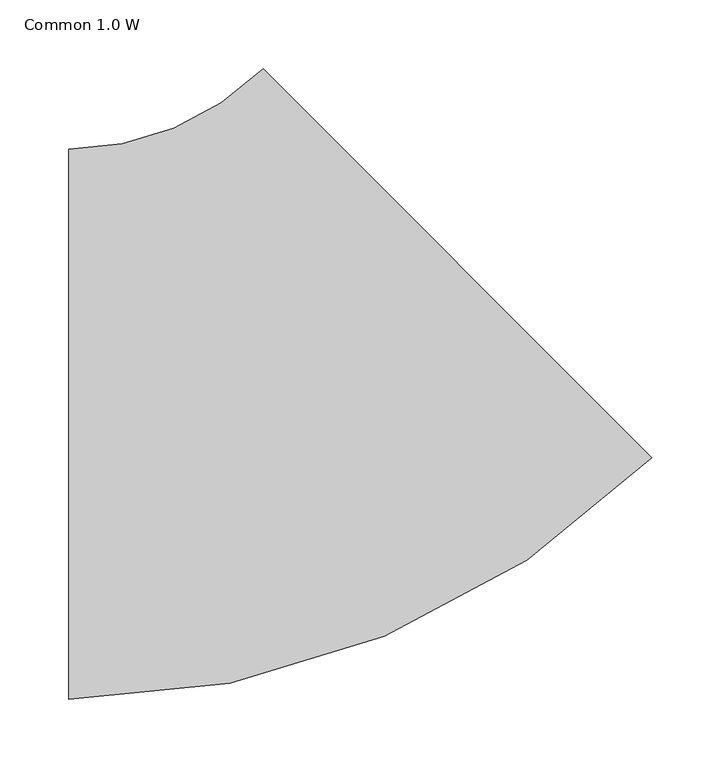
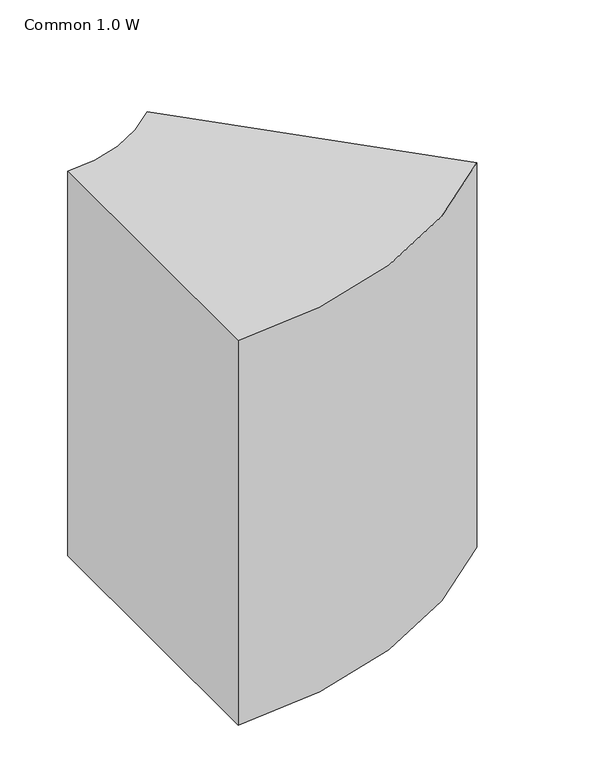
"""IFC4 building model written with IfcOpenShell, lengths in millimetres: duct fitting geometry, 011_角型エルボ - 半径 : Common 1.0 W."""

from ifc_helpers import new_model, si_unit, point, frame, frame_2d, origin, place, context, project, spatial, polyline, circle_curve, trimmed, segment, composite_curve, outline, extrude, source, transform, mapped, element, save


def common_1_0_w_6671b1d5(model_context):
    return source(origin(), model_context, "Body", "SweptSolid", [
        extrude(outline(composite_curve([segment(trimmed(circle_curve(frame_2d((-165.6854249, 400.0)), 600.0), [point((258.5786438, -24.2640687))], [point((-165.6854249, -200.0))], False, "CARTESIAN"), True, "CONTINUOUS"), segment(polyline([(-165.6854249, -200.0), (-165.6854249, 200.0)]), True, "CONTINUOUS"), segment(trimmed(circle_curve(frame_2d((-165.6854249, 400.0)), 200.0), [point((-165.6854249, 200.0))], [point((-24.2640687, 258.5786438))], True, "CARTESIAN"), True, "CONTINUOUS"), segment(polyline([(-24.2640687, 258.5786438), (258.5786438, -24.2640687)]), True, "CONTINUOUS")], self_intersect=False)), frame((0.0, 0.0, -275.0), z_axis=(0.0, 0.0, 1.0), x_axis=(1.0, 0.0, 0.0)), (0.0, 0.0, 1.0), 550.0),
    ])


if __name__ == "__main__":
    model = new_model("IFC4")
    model_context = context("Model", 3, world=origin())
    ifc_project = project(units=[si_unit("LENGTHUNIT", "METRE", prefix="MILLI")], contexts=[model_context])
    site = spatial("IfcSite", under=ifc_project)
    building = spatial("IfcBuilding", under=site)
    placement = place(None, origin())
    common_1_0_w_shape = common_1_0_w_6671b1d5(model_context)
    element("IfcDuctFitting", 1, ObjectType="011_角型エルボ - 半径 : Common 1.0 W", at=placement, inside=building, context=model_context, shape_type="MappedRepresentation", body=[
        mapped(common_1_0_w_shape, transform((0.0, 0.0, 0.0), x_axis=(1.0, 0.0, 0.0), y_axis=(0.0, 1.0, 0.0), z_axis=(0.0, 0.0, 1.0))),
    ])
    save(model, "model.ifc")
